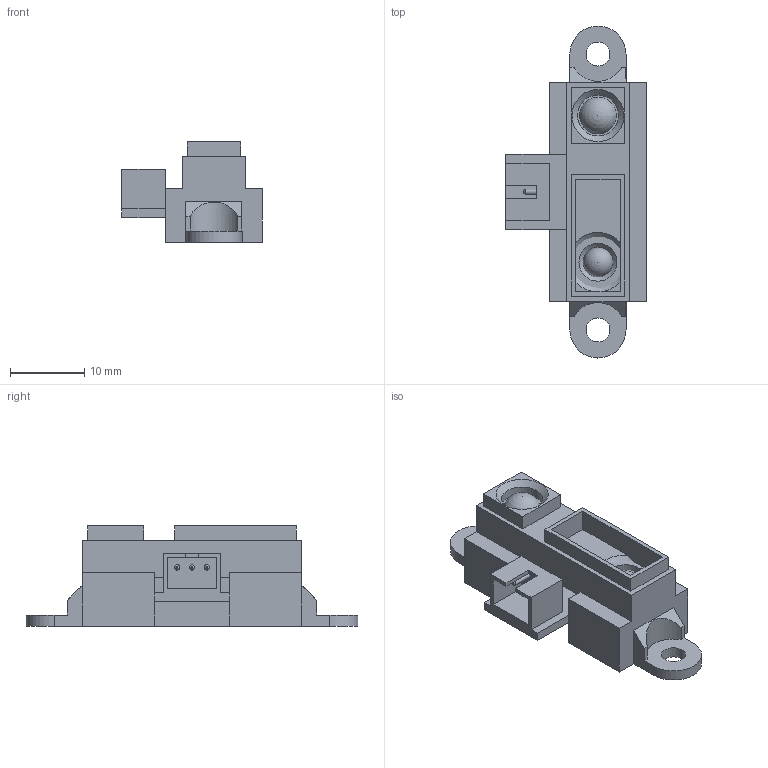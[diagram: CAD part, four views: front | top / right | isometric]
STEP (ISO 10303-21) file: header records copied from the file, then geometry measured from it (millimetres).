
FILE_DESCRIPTION(/* description */ ('Alibre Inc.'),/* implementation_level */ '2;1');
FILE_NAME(/* name */ 'export0',/* time_stamp */ '2013-08-14T14:14:38-06:00',/* author */ (''),/* organization */ (''),/* preprocessor_version */ 'ST-DEVELOPER v14',/* originating_system */ 'Alibre',/* authorisation */ '');
FILE_SCHEMA (('ALIBRE_SCHEMA','CONFIG_CONTROL_DESIGN'));
Length unit declared in the file: centimetre
Products named in the file (1): ID_1
Bounding box: 18.9 x 44.6 x 13.5 mm (x, y, z)
Volume: 1660.2 mm3; surface area: 4701.5 mm2
Topology: 1 solids, 4 shells, 155 faces, 401 edges, 265 vertices
Faces by surface type: plane 117, cylinder 24, cone 9, sphere 3, bspline 2
Full cylindrical faces by diameter (mm): 0.7 x3, 3.2 x2, 4 x1, 4.3 x2, 5.1 x1, 5.5 x1
Entity records: 10375 total; most frequent: CARTESIAN_POINT 1661, DIRECTION 877, CONSTRAINTPAIRUV 815, ORIENTED_EDGE 752, VECTOR 603, REFERENCEDEPENDENTUV 593, LINE 483, REFERENCEPOINTUV 474
